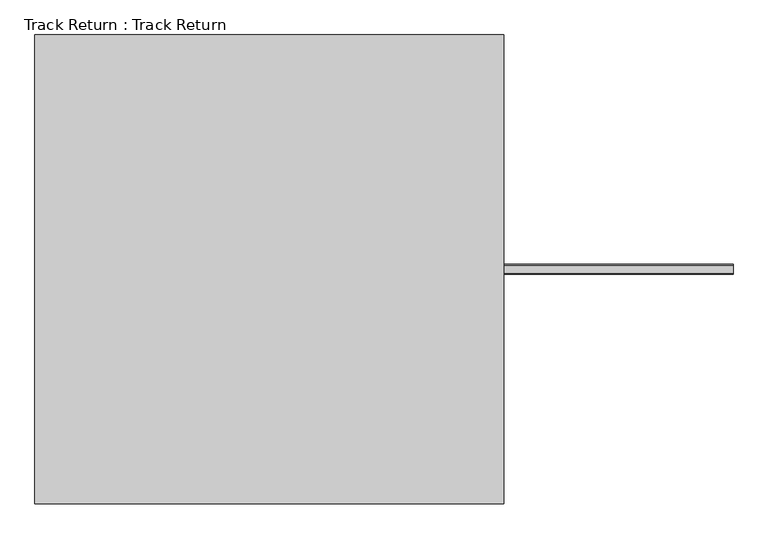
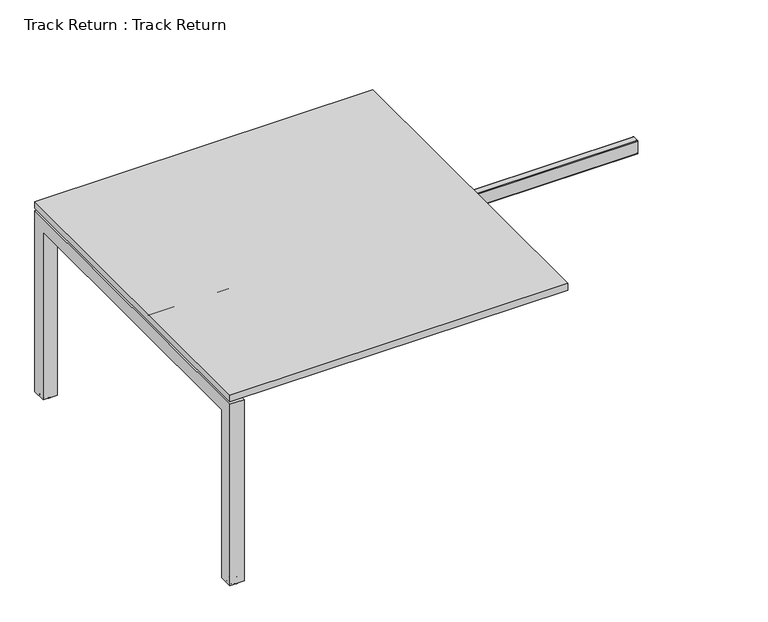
"""IFC4 building model written with IfcOpenShell, lengths in millimetres: furniture geometry, Track Return : Track Return."""

import ifcopenshell
import ifcopenshell.guid

model = None  # the IFC model being written
_history = None  # IfcOwnerHistory: only IFC2X3 demands one
_inside = {}  # id of a spatial element -> (the spatial element, [elements in it])
_under = {}  # id of a project, library or spatial element -> (it, [spatial elements below it])
_declared = {}  # id of a project -> (the project, [libraries it declares])
_typed = {}  # id of a type object -> (the type object, [elements of that type])
_made_of = {}  # id of a material, layer set ... -> (it, [elements and type objects made of it])


def new_model(schema):
    """Start an empty IFC model of exactly this schema.

    Asked for "IFC4X3", IfcOpenShell would pick the latest addendum, in which some entities
    have other attributes; the version numbers below select the first issue.
    IFC2X3 requires an IfcOwnerHistory on every rooted entity: one is made here for all.
    """
    global model, _history
    if schema == "IFC4X3":
        model = ifcopenshell.file(schema_version=(4, 3, 0, 0))
    else:
        model = ifcopenshell.file(schema=schema)
    _inside.clear()
    _under.clear()
    _declared.clear()
    _typed.clear()
    _made_of.clear()
    _history = None
    if model.schema == "IFC2X3":
        org = make("IfcOrganization", Name="unknown")
        user = make(
            "IfcPersonAndOrganization",
            ThePerson=make("IfcPerson", FamilyName="unknown"),
            TheOrganization=org,
        )
        app = make(
            "IfcApplication",
            ApplicationDeveloper=org,
            Version="unknown",
            ApplicationFullName="unknown",
            ApplicationIdentifier="unknown",
        )
        _history = make(
            "IfcOwnerHistory",
            OwningUser=user,
            OwningApplication=app,
            ChangeAction="ADDED",
            CreationDate=0,
        )
    return model


def make(cls, **values):
    """One entity of the class cls with the attributes given. An attribute that is None is left unset."""
    return model.create_entity(
        cls, **{name: value for name, value in values.items() if value is not None}
    )


def rooted(cls, **values):
    """An entity with a GlobalId (a new one), such as an element, a storey or a relation."""
    return make(cls, GlobalId=ifcopenshell.guid.new(), OwnerHistory=_history, **values)


def si_unit(unit_type, name, prefix=None):
    """IfcSIUnit, for example si_unit("LENGTHUNIT", "METRE", prefix="MILLI")."""
    return make("IfcSIUnit", UnitType=unit_type, Prefix=prefix, Name=name)


def assignment(units):
    """IfcUnitAssignment: the units of a project."""
    return None if units is None else make("IfcUnitAssignment", Units=units)


def point(xyz):
    """IfcCartesianPoint."""
    return None if xyz is None else make("IfcCartesianPoint", Coordinates=xyz)


def direction(xyz):
    """IfcDirection."""
    return None if xyz is None else make("IfcDirection", DirectionRatios=xyz)


def frame(location, z_axis=None, x_axis=None):
    """IfcAxis2Placement3D, a coordinate frame: its origin and axes. An axis left out is left unset."""
    return make(
        "IfcAxis2Placement3D",
        Location=point(location),
        Axis=direction(z_axis),
        RefDirection=direction(x_axis),
    )


def frame_2d(location, x_axis=None):
    """IfcAxis2Placement2D, a coordinate frame in the plane: its origin and x axis."""
    return make(
        "IfcAxis2Placement2D", Location=point(location), RefDirection=direction(x_axis)
    )


def origin():
    """The frame at (0, 0, 0) with its axes left unset."""
    return frame((0.0, 0.0, 0.0))


def place(relative_to, where):
    """IfcLocalPlacement: puts the frame where relative to a parent placement (None: the world)."""
    return make(
        "IfcLocalPlacement", PlacementRelTo=relative_to, RelativePlacement=where
    )


def context(
    kind, dimensions, precision=None, world=None, true_north=None, identifier=None
):
    """IfcGeometricRepresentationContext, for example the 3D "Model" context."""
    return make(
        "IfcGeometricRepresentationContext",
        ContextIdentifier=identifier,
        ContextType=kind,
        CoordinateSpaceDimension=dimensions,
        Precision=precision,
        WorldCoordinateSystem=world,
        TrueNorth=true_north,
    )


def project(units=None, contexts=None):
    """IfcProject with its units and contexts."""
    return rooted(
        "IfcProject",
        Name="project",
        RepresentationContexts=contexts,
        UnitsInContext=assignment(units),
    )


def spatial(cls, under=None, at=None, **own):
    """A site, building, storey or space (cls), placed at a placement, below another one or the project."""
    s = rooted(cls, ObjectPlacement=at, **own)
    if under is not None:
        _under.setdefault(under.id(), (under, []))[1].append(s)
    return s


def polyline(points):
    """IfcPolyline through the points."""
    return make("IfcPolyline", Points=[point(p) for p in points])


def circle_curve(where, radius):
    """IfcCircle in the frame where."""
    return make("IfcCircle", Position=where, Radius=radius)


def ellipse_curve(where, semi_axis1, semi_axis2):
    """IfcEllipse in the frame where."""
    return make(
        "IfcEllipse", Position=where, SemiAxis1=semi_axis1, SemiAxis2=semi_axis2
    )


def trimmed(basis, trim1, trim2, sense, master):
    """IfcTrimmedCurve: the piece of a basis curve between two trims."""
    return make(
        "IfcTrimmedCurve",
        BasisCurve=basis,
        Trim1=trim1,
        Trim2=trim2,
        SenseAgreement=sense,
        MasterRepresentation=master,
    )


def segment(curve, same_sense, transition):
    """IfcCompositeCurveSegment."""
    return make(
        "IfcCompositeCurveSegment",
        Transition=transition,
        SameSense=same_sense,
        ParentCurve=curve,
    )


def composite_curve(segments, self_intersect=None):
    """IfcCompositeCurve: segments joined end to end."""
    return make("IfcCompositeCurve", Segments=segments, SelfIntersect=self_intersect)


def outline(outer, holes=None, kind="AREA"):
    """IfcArbitraryClosedProfileDef: a profile drawn as a closed curve; with holes, ...WithVoids."""
    if holes is None:
        return make("IfcArbitraryClosedProfileDef", ProfileType=kind, OuterCurve=outer)
    return make(
        "IfcArbitraryProfileDefWithVoids",
        ProfileType=kind,
        OuterCurve=outer,
        InnerCurves=holes,
    )


def extrude(swept, where, along, depth):
    """IfcExtrudedAreaSolid: the profile swept, set in the frame where, extruded along a direction by depth."""
    return make(
        "IfcExtrudedAreaSolid",
        SweptArea=swept,
        Position=where,
        ExtrudedDirection=direction(along),
        Depth=depth,
    )


def shape(context_of_items, identifier, shape_type, items):
    """IfcShapeRepresentation: the items that make up one representation, for example the "Body"."""
    return make(
        "IfcShapeRepresentation",
        ContextOfItems=context_of_items,
        RepresentationIdentifier=identifier,
        RepresentationType=shape_type,
        Items=items,
    )


def source(mapping_origin, context_of_items, identifier, shape_type, items):
    """IfcRepresentationMap: a shape defined once, which mapped items show again and again."""
    return make(
        "IfcRepresentationMap",
        MappingOrigin=mapping_origin,
        MappedRepresentation=shape(context_of_items, identifier, shape_type, items),
    )


def transform(
    local_origin,
    x_axis=None,
    y_axis=None,
    z_axis=None,
    scale=None,
    scale2=None,
    scale3=None,
    uniform=True,
):
    """IfcCartesianTransformationOperator3D, or its non-uniform kind. x_axis, y_axis, z_axis: its Axis1, 2, 3."""
    if uniform:
        return make(
            "IfcCartesianTransformationOperator3D",
            Axis1=direction(x_axis),
            Axis2=direction(y_axis),
            LocalOrigin=point(local_origin),
            Scale=scale,
            Axis3=direction(z_axis),
        )
    return make(
        "IfcCartesianTransformationOperator3DnonUniform",
        Axis1=direction(x_axis),
        Axis2=direction(y_axis),
        LocalOrigin=point(local_origin),
        Scale=scale,
        Axis3=direction(z_axis),
        Scale2=scale2,
        Scale3=scale3,
    )


def mapped(mapping_source, mapping_target):
    """IfcMappedItem: shows the shape of a source again, moved by a transform."""
    return make(
        "IfcMappedItem", MappingSource=mapping_source, MappingTarget=mapping_target
    )


def made_of(thing, what):
    """Note that an element or type object is made of a material, layer set ...; save() writes the relation."""
    if what is not None:
        _made_of.setdefault(what.id(), (what, []))[1].append(thing)
    return thing


def element(
    cls,
    number,
    at=None,
    inside=None,
    cuts=None,
    type_object=None,
    material=None,
    context=None,
    identifier="Body",
    shape_type=None,
    held_by="IfcProductDefinitionShape",
    body=None,
    shapes=None,
    **own,
):
    """One element of the class cls, such as IfcWall. Its Tag is "e" and its number.

    at: its placement. inside: the storey or other place that contains it. cuts: it is an
    opening in that element (IfcRelVoidsElement). A single representation is given by context,
    identifier, shape_type and body (its items); several are given by shapes. held_by: the class
    of the entity that holds the representations. save() writes the other relations.
    """
    e = rooted(cls, Tag="e%d" % number, ObjectPlacement=at, **own)
    if body is not None:
        shapes = [shape(context, identifier, shape_type, body)]
    if shapes is not None:
        e.Representation = make(held_by, Representations=shapes)
    if inside is not None:
        _inside.setdefault(inside.id(), (inside, []))[1].append(e)
    if cuts is not None:
        rooted(
            "IfcRelVoidsElement", RelatingBuildingElement=cuts, RelatedOpeningElement=e
        )
    if type_object is not None:
        _typed.setdefault(type_object.id(), (type_object, []))[1].append(e)
    return made_of(e, material)


def aggregate(whole, parts):
    """IfcRelAggregates: a whole, such as a stair, and the parts it consists of."""
    return rooted("IfcRelAggregates", RelatingObject=whole, RelatedObjects=parts)


def save(model, path):
    """Write the relations noted so far, then the file.

    IfcRelAggregates (storeys below a building ...), IfcRelContainedInSpatialStructure (elements
    in a storey), IfcRelDefinesByType, IfcRelAssociatesMaterial and IfcRelDeclares: one each for
    every whole, place, type object, material and project.
    """
    for whole, parts in _under.values():
        aggregate(whole, parts)
    for where, things in _inside.values():
        rooted(
            "IfcRelContainedInSpatialStructure",
            RelatedElements=things,
            RelatingStructure=where,
        )
    for kind, things in _typed.values():
        rooted("IfcRelDefinesByType", RelatedObjects=things, RelatingType=kind)
    for what, things in _made_of.values():
        rooted("IfcRelAssociatesMaterial", RelatedObjects=things, RelatingMaterial=what)
    for by, libraries in _declared.values():
        rooted("IfcRelDeclares", RelatingContext=by, RelatedDefinitions=libraries)
    model.write(path)


def plane_surface(at):
    """IfcPlane: the flat surface through the origin of the frame at, square to its z axis."""
    return make("IfcPlane", Position=at)


def cylinder_surface(at, radius):
    """IfcCylindricalSurface: all points at the distance radius from the z axis of the frame at."""
    return make("IfcCylindricalSurface", Position=at, Radius=radius)


def revolved_surface(curve, axis_point, axis_direction):
    """IfcSurfaceOfRevolution: the curve turned about the line through axis_point along axis_direction."""
    return make(
        "IfcSurfaceOfRevolution",
        SweptCurve=make("IfcArbitraryOpenProfileDef", ProfileType="CURVE", Curve=curve),
        AxisPosition=make("IfcAxis1Placement", Location=point(axis_point), Axis=direction(axis_direction)),
    )


def advanced_brep(points, edges, surfaces, faces):
    """IfcAdvancedBrep: a solid bounded by faces that lie on surfaces and meet in shared edges.

    An edge is (start, end): straight between two places in points (the first is 0);
    or (start, end, curve); or (start, end, curve, False) where it runs against its curve.
    A face is (place in surfaces, loops), or (place, loops, False) where it looks against
    its surface's normal. A loop lists edges by number (the first is 1), with a minus sign
    where the edge is run from its end to its start. The first loop is the outer one.
    """
    corners = [point(p) for p in points]
    vertices = [make("IfcVertexPoint", VertexGeometry=c) for c in corners]
    made = []
    for start, end, *more in edges:
        made.append(
            make(
                "IfcEdgeCurve",
                EdgeStart=vertices[start],
                EdgeEnd=vertices[end],
                EdgeGeometry=more[0] if more else make("IfcPolyline", Points=[corners[start], corners[end]]),
                SameSense=more[1] if len(more) > 1 else True,
            )
        )
    hull = []
    for where, loops, *sense in faces:
        bounds = []
        for j, loop in enumerate(loops):
            ring = [make("IfcOrientedEdge", EdgeElement=made[abs(k) - 1], Orientation=k > 0) for k in loop]
            bounds.append(
                make(
                    "IfcFaceOuterBound" if j == 0 else "IfcFaceBound",
                    Bound=make("IfcEdgeLoop", EdgeList=ring),
                    Orientation=True,
                )
            )
        hull.append(make("IfcAdvancedFace", Bounds=bounds, FaceSurface=surfaces[where], SameSense=sense[0] if sense else True))
    return make("IfcAdvancedBrep", Outer=make("IfcClosedShell", CfsFaces=hull))


def track_return_track_return_ac03edc2(model_context):
    return source(origin(), model_context, "Body", "SolidModel", [
        extrude(outline(polyline([(645.9999994, -1045.0000043), (692.5000071, -1045.0000043), (692.5000071, -1150.0000088), (687.999991, -1150.0000088), (687.999991, -1147.5000069), (645.9999994, -1147.5000069), (645.9999994, -1045.0000043)]), holes=[composite_curve([segment(trimmed(circle_curve(frame_2d((668.1207902, -1130.0000123)), 2.9999986), [point((668.1207902, -1133.0000108))], [point((668.1207902, -1127.0000137))], True, "CARTESIAN"), True, "CONTINUOUS"), segment(trimmed(circle_curve(frame_2d((668.1207902, -1130.0000123)), 2.9999986), [point((668.1207902, -1127.0000137))], [point((668.1207902, -1133.0000108))], True, "CARTESIAN"), True, "CONTINUOUS")], self_intersect=False), composite_curve([segment(trimmed(circle_curve(frame_2d((668.1207902, -1104.0059247)), 2.9999986), [point((668.1207902, -1107.0059233))], [point((668.1207902, -1101.0059262))], True, "CARTESIAN"), True, "CONTINUOUS"), segment(trimmed(circle_curve(frame_2d((668.1207902, -1104.0059247)), 2.9999986), [point((668.1207902, -1101.0059262))], [point((668.1207902, -1107.0059233))], True, "CARTESIAN"), True, "CONTINUOUS")], self_intersect=False), composite_curve([segment(trimmed(circle_curve(frame_2d((668.1207902, -1078.0118372)), 2.9999986), [point((668.1207902, -1075.0118387))], [point((668.1207902, -1081.0118358))], True, "CARTESIAN"), True, "CONTINUOUS"), segment(trimmed(circle_curve(frame_2d((668.1207902, -1078.0118372)), 2.9999986), [point((668.1207902, -1081.0118358))], [point((668.1207902, -1075.0118387))], True, "CARTESIAN"), True, "CONTINUOUS")], self_intersect=False), composite_curve([segment(trimmed(circle_curve(frame_2d((668.1207902, -1052.0177497)), 2.9999986), [point((668.1207902, -1049.0177511))], [point((668.1207902, -1055.0177483))], True, "CARTESIAN"), True, "CONTINUOUS"), segment(trimmed(circle_curve(frame_2d((668.1207902, -1052.0177497)), 2.9999986), [point((668.1207902, -1055.0177483))], [point((668.1207902, -1049.0177511))], True, "CARTESIAN"), True, "CONTINUOUS")], self_intersect=False)]), frame((0.0, 12.5625054, 0.0), z_axis=(0.0, 1.0, 0.0), x_axis=(0.0, 0.0, 1.0)), (0.0, 0.0, 1.0), 1.2633677),
        extrude(outline(composite_curve([segment(polyline([(-1167.9824993, 25.0000456), (-1150.0000088, 25.0000456), (-1150.0000088, -24.9999548), (-1167.9714234, -24.9999548)]), True, "CONTINUOUS"), segment(trimmed(circle_curve(frame_2d((-1167.9714234, -22.9713684)), 2.0285864), [point((-1167.9714234, -24.9999548))], [point((-1170.0000098, -22.9713684))], False, "CARTESIAN"), True, "CONTINUOUS"), segment(polyline([(-1170.0000098, -22.9713684), (-1170.0000098, 22.9825351)]), True, "CONTINUOUS"), segment(trimmed(circle_curve(frame_2d((-1167.9824993, 22.9825351)), 2.0175105), [point((-1170.0000098, 22.9825351))], [point((-1167.9824993, 25.0000456))], False, "CARTESIAN"), True, "CONTINUOUS")], self_intersect=False), holes=[composite_curve([segment(trimmed(circle_curve(frame_2d((-1161.5000109, 4.54e-05)), 3.2500196), [point((-1164.7500305, 4.54e-05))], [point((-1158.2499912, 4.54e-05))], True, "CARTESIAN"), True, "CONTINUOUS"), segment(trimmed(circle_curve(frame_2d((-1161.5000109, 4.54e-05)), 3.2500196), [point((-1158.2499912, 4.54e-05))], [point((-1164.7500305, 4.54e-05))], True, "CARTESIAN"), True, "CONTINUOUS")], self_intersect=False)]), frame((0.0, 0.0, 633.0000051), z_axis=(0.0, 0.0, 1.0), x_axis=(1.0, 0.0, 0.0)), (0.0, 0.0, 1.0), 2.4999928),
        extrude(outline(composite_curve([segment(polyline([(-1167.9824993, 25.0000456), (-1150.0000088, 25.0000456), (-1150.0000088, -24.9999548), (-1167.9714234, -24.9999548)]), True, "CONTINUOUS"), segment(trimmed(circle_curve(frame_2d((-1167.9714234, -22.9713684)), 2.0285864), [point((-1167.9714234, -24.9999548))], [point((-1170.0000098, -22.9713684))], False, "CARTESIAN"), True, "CONTINUOUS"), segment(polyline([(-1170.0000098, -22.9713684), (-1170.0000098, 22.9825351)]), True, "CONTINUOUS"), segment(trimmed(circle_curve(frame_2d((-1167.9824993, 22.9825351)), 2.0175105), [point((-1170.0000098, 22.9825351))], [point((-1167.9824993, 25.0000456))], False, "CARTESIAN"), True, "CONTINUOUS")], self_intersect=False), holes=[composite_curve([segment(trimmed(circle_curve(frame_2d((-1161.5000109, 4.54e-05)), 3.2500196), [point((-1164.7500305, 4.54e-05))], [point((-1158.2499912, 4.54e-05))], True, "CARTESIAN"), True, "CONTINUOUS"), segment(trimmed(circle_curve(frame_2d((-1161.5000109, 4.54e-05)), 3.2500196), [point((-1158.2499912, 4.54e-05))], [point((-1164.7500305, 4.54e-05))], True, "CARTESIAN"), True, "CONTINUOUS")], self_intersect=False)]), frame((0.0, 0.0, 685.4999983), z_axis=(0.0, 0.0, 1.0), x_axis=(1.0, 0.0, 0.0)), (0.0, 0.0, 1.0), 2.4999928),
        extrude(outline(composite_curve([segment(polyline([(687.999991, -1150.0000088), (633.0000051, -1150.0000088), (633.0000051, -1148.0414362)]), True, "CONTINUOUS"), segment(trimmed(circle_curve(frame_2d((633.5414345, -1148.0414362)), 0.5414293), [point((633.0000051, -1148.0414362))], [point((633.5414345, -1147.5000069))], False, "CARTESIAN"), True, "CONTINUOUS"), segment(polyline([(633.5414345, -1147.5000069), (687.499991, -1147.5000069)]), True, "CONTINUOUS"), segment(trimmed(circle_curve(frame_2d((687.499991, -1148.0000069)), 0.5), [point((687.499991, -1147.5000069))], [point((687.999991, -1148.0000069))], False, "CARTESIAN"), True, "CONTINUOUS"), segment(polyline([(687.999991, -1148.0000069), (687.999991, -1150.0000088)]), True, "CONTINUOUS")], self_intersect=False)), frame((0.0, -24.9999548, 0.0), z_axis=(0.0, 1.0, 0.0), x_axis=(0.0, 0.0, 1.0)), (0.0, 0.0, 1.0), 50.0000004),
        extrude(outline(polyline([(645.9999994, -1045.0000043), (692.5000071, -1045.0000043), (692.5000071, -1150.0000088), (687.999991, -1150.0000088), (687.999991, -1147.5000069), (645.9999994, -1147.5000069), (645.9999994, -1045.0000043)]), holes=[composite_curve([segment(trimmed(circle_curve(frame_2d((668.1207902, -1130.0000123)), 2.9999986), [point((668.1207902, -1133.0000108))], [point((668.1207902, -1127.0000137))], True, "CARTESIAN"), True, "CONTINUOUS"), segment(trimmed(circle_curve(frame_2d((668.1207902, -1130.0000123)), 2.9999986), [point((668.1207902, -1127.0000137))], [point((668.1207902, -1133.0000108))], True, "CARTESIAN"), True, "CONTINUOUS")], self_intersect=False), composite_curve([segment(trimmed(circle_curve(frame_2d((668.1207902, -1104.0059247)), 2.9999986), [point((668.1207902, -1107.0059233))], [point((668.1207902, -1101.0059262))], True, "CARTESIAN"), True, "CONTINUOUS"), segment(trimmed(circle_curve(frame_2d((668.1207902, -1104.0059247)), 2.9999986), [point((668.1207902, -1101.0059262))], [point((668.1207902, -1107.0059233))], True, "CARTESIAN"), True, "CONTINUOUS")], self_intersect=False), composite_curve([segment(trimmed(circle_curve(frame_2d((668.1207902, -1078.0118372)), 2.9999986), [point((668.1207902, -1075.0118387))], [point((668.1207902, -1081.0118358))], True, "CARTESIAN"), True, "CONTINUOUS"), segment(trimmed(circle_curve(frame_2d((668.1207902, -1078.0118372)), 2.9999986), [point((668.1207902, -1081.0118358))], [point((668.1207902, -1075.0118387))], True, "CARTESIAN"), True, "CONTINUOUS")], self_intersect=False), composite_curve([segment(trimmed(circle_curve(frame_2d((668.1207902, -1052.0177497)), 2.9999986), [point((668.1207902, -1049.0177511))], [point((668.1207902, -1055.0177483))], True, "CARTESIAN"), True, "CONTINUOUS"), segment(trimmed(circle_curve(frame_2d((668.1207902, -1052.0177497)), 2.9999986), [point((668.1207902, -1055.0177483))], [point((668.1207902, -1049.0177511))], True, "CARTESIAN"), True, "CONTINUOUS")], self_intersect=False)]), frame((0.0, -13.8258548, 0.0), z_axis=(0.0, 1.0, 0.0), x_axis=(0.0, 0.0, 1.0)), (0.0, 0.0, 1.0), 1.2633677),
        advanced_brep(
        [(-1200.0000092, 549.9999769, 5.4999998), (-1200.0000092, 599.9999773, 5.4999998), (-1150.0000088, 599.9999773, 5.4999998), (-1150.0000088, 549.9999769, 5.4999998), (-1198.0000092, 551.9999275, 5.4999998), (-1152.0000093, 551.9999275, 5.4999998), (-1152.0000093, 597.9999541, 5.4999998), (-1198.0000092, 597.9999541, 5.4999998), (-1200.0000092, -549.9999769, 5.4999998), (-1150.0000088, -549.9999769, 5.4999998), (-1150.0000088, -599.9999773, 5.4999998), (-1200.0000092, -599.9999773, 5.4999998), (-1198.0000092, -551.9999275, 5.4999998), (-1198.0000092, -597.9999541, 5.4999998), (-1152.0000093, -597.9999541, 5.4999998), (-1152.0000093, -551.9999275, 5.4999998), (-1200.0000092, 549.9999769, 635.4999996), (-1200.0000092, -549.9999769, 635.4999996), (-1200.0000092, -599.9999773, 685.5), (-1200.0000092, 599.9999773, 685.5), (-1150.0000088, 599.9999773, 685.5), (-1150.0000088, -599.9999773, 685.5), (-1150.0000088, -549.9999769, 635.4999996), (-1150.0000088, 549.9999769, 635.4999996), (-1198.0000092, 551.9999275, 15.4999998), (-1152.0000093, 551.9999275, 15.4999998), (-1198.0000092, 551.9999275, 637.4999502), (-1152.0000093, 551.9999275, 637.4999502), (-1152.0000093, 551.9999275, 18.4999995), (-1198.0000092, 551.9999275, 18.4999995), (-1152.0000093, 597.9999541, 15.4999998), (-1152.0000093, -597.9999541, 15.4999998), (-1152.0000093, -551.9999275, 15.4999998), (-1152.0000093, -551.9999275, 637.4999502), (-1152.0000093, -551.9999275, 18.4999995), (-1152.0000093, -597.9999541, 18.4999995), (-1152.0000093, -597.9999541, 683.4999767), (-1152.0000093, 597.9999541, 683.4999767), (-1152.0000093, 597.9999541, 18.4999995), (-1198.0000092, 597.9999541, 15.4999998), (-1198.0000092, 597.9999541, 683.4999767), (-1198.0000092, 597.9999541, 18.4999995), (-1198.0000092, -551.9999275, 15.4999998), (-1198.0000092, -597.9999541, 15.4999998), (-1198.0000092, -597.9999541, 683.4999767), (-1198.0000092, -597.9999541, 18.4999995), (-1198.0000092, -551.9999275, 18.4999995), (-1198.0000092, -551.9999275, 637.4999502), (-1180.5000094, 574.9999681, 18.4999995), (-1169.5000086, 574.9999681, 18.4999995), (-1180.5000094, 574.9999681, 15.4999998), (-1169.5000086, 574.9999681, 15.4999998), (-1180.5000094, -574.9999681, 18.4999995), (-1169.5000086, -574.9999681, 18.4999995), (-1180.5000094, -574.9999681, 15.4999998), (-1169.5000086, -574.9999681, 15.4999998)],
        [
            (0, 1),
            (1, 2),
            (2, 3),
            (3, 0),
            (4, 5),
            (5, 6),
            (6, 7),
            (7, 4),
            (8, 9),
            (9, 10),
            (10, 11),
            (11, 8),
            (12, 13),
            (13, 14),
            (14, 15),
            (15, 12),
            (0, 16),
            (16, 17),
            (17, 8),
            (11, 18),
            (18, 19),
            (19, 1),
            (19, 20),
            (20, 2),
            (20, 21),
            (21, 10),
            (9, 22),
            (22, 23),
            (23, 3),
            (23, 16),
            (4, 24),
            (24, 25),
            (25, 5),
            (26, 27),
            (27, 28),
            (28, 29),
            (29, 26),
            (25, 30),
            (30, 6),
            (14, 31),
            (31, 32),
            (32, 15),
            (27, 33),
            (33, 34),
            (34, 35),
            (35, 36),
            (36, 37),
            (37, 38),
            (38, 28),
            (30, 39),
            (39, 7),
            (37, 40),
            (40, 41),
            (41, 38),
            (39, 24),
            (12, 42),
            (42, 43),
            (43, 13),
            (40, 44),
            (44, 45),
            (45, 46),
            (46, 47),
            (47, 26),
            (29, 41),
            (18, 21),
            (22, 17),
            (47, 33),
            (36, 44),
            (32, 42),
            (46, 34),
            (43, 31),
            (35, 45),
            (48, 49, circle_curve(frame((-1175.000009, 574.9999681, 18.4999995), z_axis=(0.0, 0.0, -1.0), x_axis=(1.0, 0.0, 0.0)), 5.5000004)),
            (49, 48, circle_curve(frame((-1175.000009, 574.9999681, 18.4999995), z_axis=(0.0, 0.0, -1.0), x_axis=(1.0, 0.0, 0.0)), 5.5000004)),
            (50, 51, circle_curve(frame((-1175.000009, 574.9999681, 15.4999998), z_axis=(0.0, 0.0, 1.0), x_axis=(1.0, 0.0, 0.0)), 5.5000004)),
            (51, 50, circle_curve(frame((-1175.000009, 574.9999681, 15.4999998), z_axis=(0.0, 0.0, 1.0), x_axis=(1.0, 0.0, 0.0)), 5.5000004)),
            (49, 51),
            (50, 48),
            (52, 53, circle_curve(frame((-1175.000009, -574.9999681, 18.4999995), z_axis=(0.0, 0.0, -1.0), x_axis=(1.0, 0.0, 0.0)), 5.5000004)),
            (53, 52, circle_curve(frame((-1175.000009, -574.9999681, 18.4999995), z_axis=(0.0, 0.0, -1.0), x_axis=(1.0, 0.0, 0.0)), 5.5000004)),
            (54, 55, circle_curve(frame((-1175.000009, -574.9999681, 15.4999998), z_axis=(0.0, 0.0, 1.0), x_axis=(1.0, 0.0, 0.0)), 5.5000004)),
            (55, 54, circle_curve(frame((-1175.000009, -574.9999681, 15.4999998), z_axis=(0.0, 0.0, 1.0), x_axis=(1.0, 0.0, 0.0)), 5.5000004)),
            (52, 54),
            (55, 53),
        ],
        [
            plane_surface(frame((-1175.000009, 599.9999773, 5.4999998), z_axis=(0.0, 0.0, -1.0), x_axis=(1.0, 0.0, 0.0))),
            plane_surface(frame((-1175.000009, -599.9999773, 5.4999998), z_axis=(0.0, 0.0, -1.0), x_axis=(1.0, 0.0, 0.0))),
            plane_surface(frame((-1200.0000092, 549.9999769, 5.4999998), z_axis=(-1.0, 0.0, 0.0), x_axis=(0.0, 0.0, 1.0))),
            plane_surface(frame((-1200.0000092, 599.9999773, 5.4999998), z_axis=(0.0, 1.0, 0.0), x_axis=(0.0, 0.0, 1.0))),
            plane_surface(frame((-1150.0000088, 599.9999773, 5.4999998), z_axis=(1.0, 0.0, 0.0), x_axis=(0.0, 0.0, 1.0))),
            plane_surface(frame((-1150.0000088, 549.9999769, 5.4999998), z_axis=(0.0, -1.0, 0.0), x_axis=(0.0, 0.0, 1.0))),
            plane_surface(frame((-1198.0000092, 551.9999275, 5.4999998), z_axis=(0.0, 1.0, 0.0), x_axis=(0.0, 0.0, 1.0))),
            plane_surface(frame((-1152.0000093, 551.9999275, 5.4999998), z_axis=(-1.0, 0.0, 0.0), x_axis=(0.0, 0.0, 1.0))),
            plane_surface(frame((-1152.0000093, 597.9999541, 5.4999998), z_axis=(0.0, -1.0, 0.0), x_axis=(0.0, 0.0, 1.0))),
            plane_surface(frame((-1198.0000092, 597.9999541, 5.4999998), z_axis=(1.0, 0.0, 0.0), x_axis=(0.0, 0.0, 1.0))),
            plane_surface(frame((-1200.0000092, 599.9999773, 685.5), z_axis=(0.0, 0.0, 1.0), x_axis=(0.0, -1.0, 0.0))),
            plane_surface(frame((-1150.0000088, 549.9999769, 635.4999996), z_axis=(0.0, 0.0, -1.0), x_axis=(0.0, -1.0, 0.0))),
            plane_surface(frame((-1198.0000092, 551.9999275, 637.4999502), z_axis=(0.0, 0.0, 1.0), x_axis=(0.0, -1.0, 0.0))),
            plane_surface(frame((-1152.0000093, 597.9999541, 683.4999767), z_axis=(0.0, 0.0, -1.0), x_axis=(0.0, -1.0, 0.0))),
            plane_surface(frame((-1200.0000092, -599.9999773, 685.5), z_axis=(0.0, -1.0, 0.0), x_axis=(0.0, 0.0, -1.0))),
            plane_surface(frame((-1150.0000088, -549.9999769, 635.4999996), z_axis=(0.0, 1.0, 0.0), x_axis=(0.0, 0.0, -1.0))),
            plane_surface(frame((-1198.0000092, -551.9999275, 637.4999502), z_axis=(0.0, -1.0, 0.0), x_axis=(0.0, 0.0, -1.0))),
            plane_surface(frame((-1152.0000093, -597.9999541, 683.4999767), z_axis=(0.0, 1.0, 0.0), x_axis=(0.0, 0.0, -1.0))),
            plane_surface(frame((-1152.0000093, 551.9999275, 18.4999995), z_axis=(0.0, 0.0, 1.0), x_axis=(0.0, 1.0, 0.0))),
            plane_surface(frame((-1152.0000093, 551.9999275, 15.4999998), z_axis=(0.0, 0.0, -1.0), x_axis=(0.0, -1.0, 0.0))),
            revolved_surface(polyline([(-1169.5000086, 574.9999681, 15.4999998), (-1169.5000086, 574.9999681, 18.4999995)]), (-1175.000009, 574.9999681, 0.0), (0.0, 0.0, -1.0)),
            plane_surface(frame((-1198.0000092, -551.9999275, 18.4999995), z_axis=(0.0, 0.0, 1.0), x_axis=(-1.0, 0.0, 0.0))),
            plane_surface(frame((-1198.0000092, -551.9999275, 15.4999998), z_axis=(0.0, 0.0, -1.0), x_axis=(1.0, 0.0, 0.0))),
            revolved_surface(polyline([(-1169.5000086, -574.9999681, 15.4999998), (-1169.5000086, -574.9999681, 18.4999995)]), (-1175.000009, -574.9999681, 0.0), (0.0, 0.0, -1.0)),
        ],
        [
            (0, [[1, 2, 3, 4], [5, 6, 7, 8]]),
            (1, [[9, 10, 11, 12], [13, 14, 15, 16]]),
            (2, [[-1, 17, 18, 19, -12, 20, 21, 22]]),
            (3, [[-2, -22, 23, 24]]),
            (4, [[-3, -24, 25, 26, -10, 27, 28, 29]]),
            (5, [[-4, -29, 30, -17]]),
            (6, [[-5, 31, 32, 33]]),
            (6, [[34, 35, 36, 37]]),
            (7, [[-6, -33, 38, 39]]),
            (7, [[-15, 40, 41, 42]]),
            (7, [[43, 44, 45, 46, 47, 48, 49, -35]]),
            (8, [[-7, -39, 50, 51]]),
            (8, [[52, 53, 54, -48]]),
            (9, [[-8, -51, 55, -31]]),
            (9, [[-13, 56, 57, 58]]),
            (9, [[59, 60, 61, 62, 63, -37, 64, -53]]),
            (10, [[-21, 65, -25, -23]]),
            (11, [[-18, -30, -28, 66]]),
            (12, [[-34, -63, 67, -43]]),
            (13, [[-47, 68, -59, -52]]),
            (14, [[-11, -26, -65, -20]]),
            (15, [[-9, -19, -66, -27]]),
            (16, [[-16, -42, 69, -56]]),
            (16, [[-67, -62, 70, -44]]),
            (17, [[-14, -58, 71, -40]]),
            (17, [[-68, -46, 72, -60]]),
            (18, [[-36, -49, -54, -64], [73, 74]]),
            (19, [[-32, -55, -50, -38], [75, 76]]),
            (20, [[-74, 77, -75, 78]]),
            (20, [[-73, -78, -76, -77]]),
            (21, [[-45, -70, -61, -72], [79, 80]]),
            (22, [[-41, -71, -57, -69], [81, 82]]),
            (23, [[-79, 83, -82, 84]]),
            (23, [[-80, -84, -81, -83]]),
        ],
    ),
        advanced_brep(
        [(-1175.0000101, 578.999968, 70.0000014), (-1175.0000101, 570.9999681, 70.0000014), (-1175.0000101, 570.9999681, 10.0000005), (-1175.0000101, 578.999968, 10.0000005), (-1175.0000101, 564.0358832, 10.0000005), (-1175.0000101, 585.9640529, 10.0000005), (-1175.0000101, 564.0358832, 6.0), (-1175.0000101, 585.9640529, 6.0), (-1175.0000101, 556.9539621, 6.0), (-1175.0000101, 593.045974, 6.0), (-1175.0000101, 554.9999693, 4.0460071), (-1175.0000101, 594.9999668, 4.0460071), (-1175.0000101, 554.9999693, 2.0), (-1175.0000101, 594.9999668, 2.0), (-1175.0000101, 556.9999693, 0.0), (-1175.0000101, 592.9999668, 0.0), (-1175.0000101, 574.9999681, 0.0), (-1175.0000101, 574.9999681, 70.0000014)],
        [
            (0, 1, circle_curve(frame((-1175.0000101, 574.9999681, 70.0000014), z_axis=(0.0, 0.0, -1.0), x_axis=(0.0, -1.0, 0.0)), 4.0)),
            (1, 2),
            (2, 3, circle_curve(frame((-1175.0000101, 574.9999681, 10.0000005), z_axis=(0.0, 0.0, 1.0), x_axis=(0.0, -1.0, 0.0)), 4.0)),
            (3, 0),
            (1, 0, circle_curve(frame((-1175.0000101, 574.9999681, 70.0000014), z_axis=(0.0, 0.0, -1.0), x_axis=(0.0, -1.0, 0.0)), 4.0)),
            (3, 2, circle_curve(frame((-1175.0000101, 574.9999681, 10.0000005), z_axis=(0.0, 0.0, 1.0), x_axis=(0.0, -1.0, 0.0)), 4.0)),
            (2, 4),
            (4, 5, circle_curve(frame((-1175.0000101, 574.9999681, 10.0000005), z_axis=(0.0, 0.0, 1.0), x_axis=(0.0, -1.0, 0.0)), 10.9640848)),
            (5, 3),
            (5, 4, circle_curve(frame((-1175.0000101, 574.9999681, 10.0000005), z_axis=(0.0, 0.0, 1.0), x_axis=(0.0, -1.0, 0.0)), 10.9640848)),
            (4, 6),
            (6, 7, circle_curve(frame((-1175.0000101, 574.9999681, 6.0), z_axis=(0.0, 0.0, 1.0), x_axis=(0.0, -1.0, 0.0)), 10.9640848)),
            (7, 5),
            (7, 6, circle_curve(frame((-1175.0000101, 574.9999681, 6.0), z_axis=(0.0, 0.0, 1.0), x_axis=(0.0, -1.0, 0.0)), 10.9640848)),
            (6, 8),
            (8, 9, circle_curve(frame((-1175.0000101, 574.9999681, 6.0), z_axis=(0.0, 0.0, 1.0), x_axis=(0.0, -1.0, 0.0)), 18.0460059)),
            (9, 7),
            (9, 8, circle_curve(frame((-1175.0000101, 574.9999681, 6.0), z_axis=(0.0, 0.0, 1.0), x_axis=(0.0, -1.0, 0.0)), 18.0460059)),
            (8, 10, circle_curve(frame((-1175.0000101, 556.9539621, 4.0460071), z_axis=(1.0, 0.0, 0.0), x_axis=(0.0, 1.0, 0.0)), 1.9539929)),
            (10, 11, circle_curve(frame((-1175.0000101, 574.9999681, 4.0460071), z_axis=(0.0, 0.0, 1.0), x_axis=(0.0, -1.0, 0.0)), 19.9999988)),
            (11, 9, circle_curve(frame((-1175.0000101, 593.045974, 4.0460071), z_axis=(1.0, 0.0, 0.0), x_axis=(0.0, -1.0, 0.0)), 1.9539929)),
            (11, 10, circle_curve(frame((-1175.0000101, 574.9999681, 4.0460071), z_axis=(0.0, 0.0, 1.0), x_axis=(0.0, -1.0, 0.0)), 19.9999988)),
            (10, 12),
            (12, 13, circle_curve(frame((-1175.0000101, 574.9999681, 2.0), z_axis=(0.0, 0.0, 1.0), x_axis=(0.0, -1.0, 0.0)), 19.9999988)),
            (13, 11),
            (13, 12, circle_curve(frame((-1175.0000101, 574.9999681, 2.0), z_axis=(0.0, 0.0, 1.0), x_axis=(0.0, -1.0, 0.0)), 19.9999988)),
            (12, 14, circle_curve(frame((-1175.0000101, 556.9999693, 2.0), z_axis=(1.0, 0.0, 0.0), x_axis=(0.0, 1.0, 0.0)), 2.0)),
            (14, 15, circle_curve(frame((-1175.0000101, 574.9999681, 0.0), z_axis=(0.0, 0.0, 1.0), x_axis=(0.0, -1.0, 0.0)), 17.9999988)),
            (15, 13, circle_curve(frame((-1175.0000101, 592.9999668, 2.0), z_axis=(1.0, 0.0, 0.0), x_axis=(0.0, -1.0, 0.0)), 2.0)),
            (15, 14, circle_curve(frame((-1175.0000101, 574.9999681, 0.0), z_axis=(0.0, 0.0, 1.0), x_axis=(0.0, -1.0, 0.0)), 17.9999988)),
            (14, 16),
            (16, 15),
            (17, 1),
            (0, 17),
        ],
        [
            cylinder_surface(frame((-1175.0000101, 574.9999681, 70.0000014), z_axis=(0.0, 0.0, 1.0), x_axis=(0.0, -1.0, 0.0)), 4.0),
            plane_surface(frame((-1175.0000101, 574.9999681, 10.0000005), z_axis=(0.0, 0.0, 1.0), x_axis=(0.0, -1.0, 0.0))),
            cylinder_surface(frame((-1175.0000101, 574.9999681, 70.0000014), z_axis=(0.0, 0.0, 1.0), x_axis=(0.0, -1.0, 0.0)), 10.9640848),
            plane_surface(frame((-1175.0000101, 574.9999681, 6.0), z_axis=(0.0, 0.0, 1.0), x_axis=(0.0, -1.0, 0.0))),
            revolved_surface(trimmed(ellipse_curve(frame((-1175.0000101, 556.9539621, 4.0460071), z_axis=(-1.0, 0.0, 0.0), x_axis=(0.0, 1.0, 0.0)), 1.9539929, 1.9539929), [point((-1175.0000101, 554.9999693, 4.0460071))], [point((-1175.0000101, 556.9539621, 6.0))], True, "CARTESIAN"), (-1175.0000101, 574.9999681, 70.0000014), (0.0, 0.0, 1.0)),
            cylinder_surface(frame((-1175.0000101, 574.9999681, 70.0000014), z_axis=(0.0, 0.0, 1.0), x_axis=(0.0, -1.0, 0.0)), 19.9999988),
            revolved_surface(trimmed(ellipse_curve(frame((-1175.0000101, 556.9999693, 2.0), z_axis=(-1.0, 0.0, 0.0), x_axis=(0.0, 1.0, 0.0)), 2.0, 2.0), [point((-1175.0000101, 556.9999693, 0.0))], [point((-1175.0000101, 554.9999693, 2.0))], True, "CARTESIAN"), (-1175.0000101, 574.9999681, 70.0000014), (0.0, 0.0, 1.0)),
            plane_surface(frame((-1175.0000101, 574.9999681, 0.0), z_axis=(0.0, 0.0, -1.0), x_axis=(0.0, -1.0, 0.0))),
            plane_surface(frame((-1175.0000101, 574.9999681, 70.0000014), z_axis=(0.0, 0.0, 1.0), x_axis=(0.0, -1.0, 0.0))),
        ],
        [
            (0, [[1, 2, 3, 4]]),
            (0, [[5, -4, 6, -2]]),
            (1, [[-3, 7, 8, 9]]),
            (1, [[-6, -9, 10, -7]]),
            (2, [[-8, 11, 12, 13]]),
            (2, [[-10, -13, 14, -11]]),
            (3, [[-12, 15, 16, 17]]),
            (3, [[-14, -17, 18, -15]]),
            (4, [[-16, 19, 20, 21]]),
            (4, [[-18, -21, 22, -19]]),
            (5, [[-20, 23, 24, 25]]),
            (5, [[-22, -25, 26, -23]]),
            (6, [[-24, 27, 28, 29]]),
            (6, [[-26, -29, 30, -27]]),
            (7, [[-28, 31, 32]]),
            (7, [[-30, -32, -31]]),
            (8, [[33, -1, 34]]),
            (8, [[-34, -5, -33]]),
        ],
    ),
        advanced_brep(
        [(-1175.0000101, -578.999968, 10.0000005), (-1175.0000101, -570.9999681, 10.0000005), (-1175.0000101, -570.9999681, 70.0000014), (-1175.0000101, -578.999968, 70.0000014), (-1175.0000101, -585.9640529, 10.0000005), (-1175.0000101, -564.0358832, 10.0000005), (-1175.0000101, -585.9640529, 6.0), (-1175.0000101, -564.0358832, 6.0), (-1175.0000101, -593.045974, 6.0), (-1175.0000101, -556.9539621, 6.0), (-1175.0000101, -594.9999668, 4.0460071), (-1175.0000101, -554.9999693, 4.0460071), (-1175.0000101, -594.9999668, 2.0), (-1175.0000101, -554.9999693, 2.0), (-1175.0000101, -592.9999668, 0.0), (-1175.0000101, -556.9999693, 0.0), (-1175.0000101, -574.9999681, 0.0), (-1175.0000101, -574.9999681, 70.0000014)],
        [
            (0, 1, circle_curve(frame((-1175.0000101, -574.9999681, 10.0000005), z_axis=(0.0, 0.0, 1.0), x_axis=(0.0, 1.0, 0.0)), 4.0)),
            (1, 2),
            (2, 3, circle_curve(frame((-1175.0000101, -574.9999681, 70.0000014), z_axis=(0.0, 0.0, -1.0), x_axis=(0.0, 1.0, 0.0)), 4.0)),
            (3, 0),
            (1, 0, circle_curve(frame((-1175.0000101, -574.9999681, 10.0000005), z_axis=(0.0, 0.0, 1.0), x_axis=(0.0, 1.0, 0.0)), 4.0)),
            (3, 2, circle_curve(frame((-1175.0000101, -574.9999681, 70.0000014), z_axis=(0.0, 0.0, -1.0), x_axis=(0.0, 1.0, 0.0)), 4.0)),
            (4, 5, circle_curve(frame((-1175.0000101, -574.9999681, 10.0000005), z_axis=(0.0, 0.0, 1.0), x_axis=(0.0, 1.0, 0.0)), 10.9640848)),
            (5, 1),
            (0, 4),
            (5, 4, circle_curve(frame((-1175.0000101, -574.9999681, 10.0000005), z_axis=(0.0, 0.0, 1.0), x_axis=(0.0, 1.0, 0.0)), 10.9640848)),
            (6, 7, circle_curve(frame((-1175.0000101, -574.9999681, 6.0), z_axis=(0.0, 0.0, 1.0), x_axis=(0.0, 1.0, 0.0)), 10.9640848)),
            (7, 5),
            (4, 6),
            (7, 6, circle_curve(frame((-1175.0000101, -574.9999681, 6.0), z_axis=(0.0, 0.0, 1.0), x_axis=(0.0, 1.0, 0.0)), 10.9640848)),
            (8, 9, circle_curve(frame((-1175.0000101, -574.9999681, 6.0), z_axis=(0.0, 0.0, 1.0), x_axis=(0.0, 1.0, 0.0)), 18.0460059)),
            (9, 7),
            (6, 8),
            (9, 8, circle_curve(frame((-1175.0000101, -574.9999681, 6.0), z_axis=(0.0, 0.0, 1.0), x_axis=(0.0, 1.0, 0.0)), 18.0460059)),
            (10, 11, circle_curve(frame((-1175.0000101, -574.9999681, 4.0460071), z_axis=(0.0, 0.0, 1.0), x_axis=(0.0, 1.0, 0.0)), 19.9999988)),
            (11, 9, circle_curve(frame((-1175.0000101, -556.9539621, 4.0460071), z_axis=(1.0, 0.0, 0.0), x_axis=(0.0, -1.0, 0.0)), 1.9539929)),
            (8, 10, circle_curve(frame((-1175.0000101, -593.045974, 4.0460071), z_axis=(1.0, 0.0, 0.0), x_axis=(0.0, 1.0, 0.0)), 1.9539929)),
            (11, 10, circle_curve(frame((-1175.0000101, -574.9999681, 4.0460071), z_axis=(0.0, 0.0, 1.0), x_axis=(0.0, 1.0, 0.0)), 19.9999988)),
            (12, 13, circle_curve(frame((-1175.0000101, -574.9999681, 2.0), z_axis=(0.0, 0.0, 1.0), x_axis=(0.0, 1.0, 0.0)), 19.9999988)),
            (13, 11),
            (10, 12),
            (13, 12, circle_curve(frame((-1175.0000101, -574.9999681, 2.0), z_axis=(0.0, 0.0, 1.0), x_axis=(0.0, 1.0, 0.0)), 19.9999988)),
            (14, 15, circle_curve(frame((-1175.0000101, -574.9999681, 0.0), z_axis=(0.0, 0.0, 1.0), x_axis=(0.0, 1.0, 0.0)), 17.9999988)),
            (15, 13, circle_curve(frame((-1175.0000101, -556.9999693, 2.0), z_axis=(1.0, 0.0, 0.0), x_axis=(0.0, -1.0, 0.0)), 2.0)),
            (12, 14, circle_curve(frame((-1175.0000101, -592.9999668, 2.0), z_axis=(1.0, 0.0, 0.0), x_axis=(0.0, 1.0, 0.0)), 2.0)),
            (15, 14, circle_curve(frame((-1175.0000101, -574.9999681, 0.0), z_axis=(0.0, 0.0, 1.0), x_axis=(0.0, 1.0, 0.0)), 17.9999988)),
            (16, 15),
            (14, 16),
            (2, 17),
            (17, 3),
        ],
        [
            cylinder_surface(frame((-1175.0000101, -574.9999681, 70.0000014), z_axis=(0.0, 0.0, -1.0), x_axis=(0.0, 1.0, 0.0)), 4.0),
            plane_surface(frame((-1175.0000101, -574.9999681, 10.0000005), z_axis=(0.0, 0.0, 1.0), x_axis=(0.0, 1.0, 0.0))),
            cylinder_surface(frame((-1175.0000101, -574.9999681, 70.0000014), z_axis=(0.0, 0.0, -1.0), x_axis=(0.0, 1.0, 0.0)), 10.9640848),
            plane_surface(frame((-1175.0000101, -574.9999681, 6.0), z_axis=(0.0, 0.0, 1.0), x_axis=(0.0, 1.0, 0.0))),
            revolved_surface(trimmed(ellipse_curve(frame((-1175.0000101, -556.9539621, 4.0460071), z_axis=(-1.0, 0.0, 0.0), x_axis=(0.0, -1.0, 0.0)), 1.9539929, 1.9539929), [point((-1175.0000101, -556.9539621, 6.0))], [point((-1175.0000101, -554.9999693, 4.0460071))], True, "CARTESIAN"), (-1175.0000101, -574.9999681, 70.0000014), (0.0, 0.0, -1.0)),
            cylinder_surface(frame((-1175.0000101, -574.9999681, 70.0000014), z_axis=(0.0, 0.0, -1.0), x_axis=(0.0, 1.0, 0.0)), 19.9999988),
            revolved_surface(trimmed(ellipse_curve(frame((-1175.0000101, -556.9999693, 2.0), z_axis=(-1.0, 0.0, 0.0), x_axis=(0.0, -1.0, 0.0)), 2.0, 2.0), [point((-1175.0000101, -554.9999693, 2.0))], [point((-1175.0000101, -556.9999693, 0.0))], True, "CARTESIAN"), (-1175.0000101, -574.9999681, 70.0000014), (0.0, 0.0, -1.0)),
            plane_surface(frame((-1175.0000101, -574.9999681, 0.0), z_axis=(0.0, 0.0, -1.0), x_axis=(0.0, 1.0, 0.0))),
            plane_surface(frame((-1175.0000101, -574.9999681, 70.0000014), z_axis=(0.0, 0.0, 1.0), x_axis=(0.0, 1.0, 0.0))),
        ],
        [
            (0, [[1, 2, 3, 4]]),
            (0, [[5, -4, 6, -2]]),
            (1, [[7, 8, -1, 9]]),
            (1, [[10, -9, -5, -8]]),
            (2, [[11, 12, -7, 13]]),
            (2, [[14, -13, -10, -12]]),
            (3, [[15, 16, -11, 17]]),
            (3, [[18, -17, -14, -16]]),
            (4, [[19, 20, -15, 21]]),
            (4, [[22, -21, -18, -20]]),
            (5, [[23, 24, -19, 25]]),
            (5, [[26, -25, -22, -24]]),
            (6, [[27, 28, -23, 29]]),
            (6, [[30, -29, -26, -28]]),
            (7, [[31, -27, 32]]),
            (7, [[-32, -30, -31]]),
            (8, [[-3, 33, 34]]),
            (8, [[-6, -34, -33]]),
        ],
    ),
        extrude(outline(composite_curve([segment(polyline([(-12.4999638, 646.9999994), (-12.4999638, 692.9999998)]), True, "CONTINUOUS"), segment(trimmed(circle_curve(frame_2d((-10.4999638, 692.9999998)), 2.0), [point((-12.4999638, 692.9999998))], [point((-10.4999638, 694.9999998))], False, "CARTESIAN"), True, "CONTINUOUS"), segment(polyline([(-10.4999638, 694.9999998), (10.4999638, 694.9999998)]), True, "CONTINUOUS"), segment(trimmed(circle_curve(frame_2d((10.4999638, 692.9999998)), 2.0), [point((10.4999638, 694.9999998))], [point((12.4999638, 692.9999998))], False, "CARTESIAN"), True, "CONTINUOUS"), segment(polyline([(12.4999638, 692.9999998), (12.4999638, 646.9999994)]), True, "CONTINUOUS"), segment(trimmed(circle_curve(frame_2d((10.4999638, 646.9999994)), 2.0), [point((12.4999638, 646.9999994))], [point((10.4999638, 644.9999994))], False, "CARTESIAN"), True, "CONTINUOUS"), segment(polyline([(10.4999638, 644.9999994), (-10.4999638, 644.9999994)]), True, "CONTINUOUS"), segment(trimmed(circle_curve(frame_2d((-10.4999638, 646.9999994)), 2.0), [point((-10.4999638, 644.9999994))], [point((-12.4999638, 646.9999994))], False, "CARTESIAN"), True, "CONTINUOUS")], self_intersect=False), holes=[polyline([(10.5000858, 692.9999765), (-10.5000858, 692.9999765), (-10.5000858, 646.99995), (10.5000858, 646.99995), (10.5000858, 692.9999765)])]), frame((-1150.0000088, 0.0, 0.0), z_axis=(1.0, 0.0, 0.0), x_axis=(0.0, 1.0, 0.0)), (0.0, 0.0, 1.0), 1737.0000801),
        extrude(outline(polyline([(-1200.0000092, 599.9999773), (0.0, 599.9999773), (0.0, -599.9999773), (-1200.0000092, -599.9999773), (-1200.0000092, 599.9999773)])), frame((0.0, 0.0, 694.9999998), z_axis=(0.0, 0.0, 1.0), x_axis=(1.0, 0.0, 0.0)), (0.0, 0.0, 1.0), 25.0000002),
    ])


if __name__ == "__main__":
    model = new_model("IFC4")
    model_context = context("Model", 3, world=origin())
    ifc_project = project(units=[si_unit("LENGTHUNIT", "METRE", prefix="MILLI")], contexts=[model_context])
    site = spatial("IfcSite", under=ifc_project)
    building = spatial("IfcBuilding", under=site)
    placement = place(None, origin())
    track_return_track_return_shape = track_return_track_return_ac03edc2(model_context)
    element("IfcFurniture", 1, ObjectType="Track Return : Track Return", at=placement, inside=building, context=model_context, shape_type="MappedRepresentation", body=[
        mapped(track_return_track_return_shape, transform((0.0, 0.0, 0.0), x_axis=(1.0, 0.0, 0.0), y_axis=(0.0, 1.0, 0.0), z_axis=(0.0, 0.0, 1.0))),
    ])
    save(model, "model.ifc")
